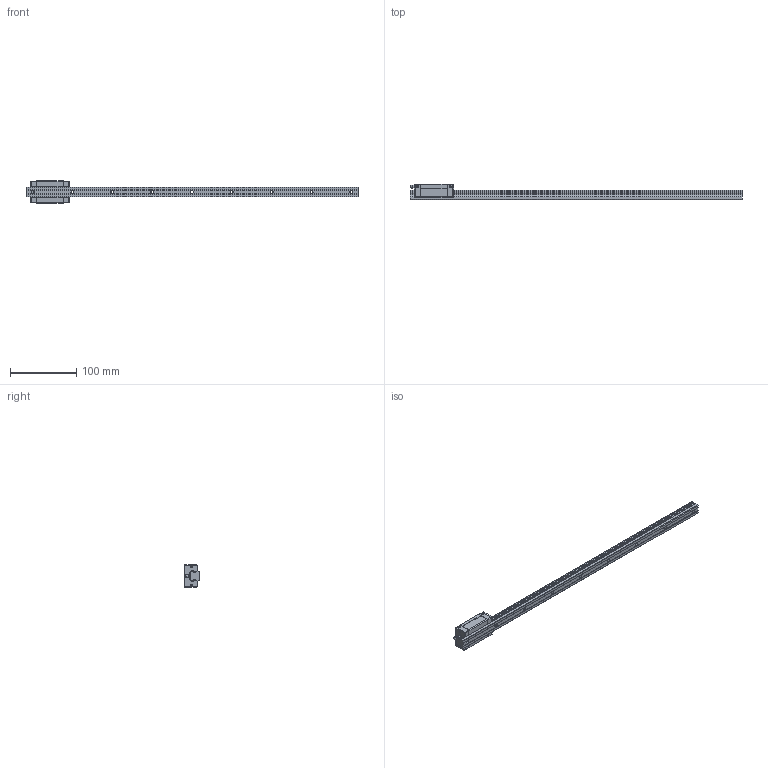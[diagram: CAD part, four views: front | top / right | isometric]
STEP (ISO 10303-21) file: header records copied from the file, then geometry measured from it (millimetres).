
FILE_DESCRIPTION(/* description */ ('STEP AP214'),/* implementation_level */ '2;1');
FILE_NAME(/* name */ 'D:\Katalogi inne\Technika liniowa\NATECH\Modele 3D\nowe 11.02.2026\SHAC_GHL15CA1R500Z0C101011\NGL15CAZ0C.stp',/* time_stamp */ '2026-02-11T16:57:17+01:00',/* author */ ('dnia_tomasz_tm'),/* organization */ ('CADENAS'),/* preprocessor_version */ 'ST-DEVELOPER v16.13',/* originating_system */ 'Autodesk Inventor 2018',/* authorisation */ ' ');
FILE_SCHEMA (('AUTOMOTIVE_DESIGN { 1 0 10303 214 3 1 1 }'));
Length unit declared in the file: millimetre
Products named in the file (8): GHL15CA1R500Z0C-10_10(1_1); GHR15R500C+RC-10_10(1)_RAIL; GHL15CA_SLIDER; GH15_BOLT; GHL15CA_C; GHL15CA_P; GH15_SCREW; GH15-_G
Assembly tree (12 placements, depth 2):
  GHL15CA1R500Z0C-10_10(1_1)
    GHR15R500C+RC-10_10(1)_RAIL
    GHL15CA_SLIDER
    GHL15CA_C  x2
    GHL15CA_P  x2
    GH15_SCREW  x4
    GH15_BOLT
    GH15-_G
Bounding box: 500 x 24 x 34 mm (x, y, z)
Volume: 126176.6 mm3; surface area: 46288.4 mm2
Topology: 12 solids, 12 shells, 446 faces, 1165 edges, 768 vertices
Faces by surface type: plane 339, cylinder 77, cone 16, torus 9, sphere 5
Full cylindrical faces by diameter (mm): 0.426 x4, 2.64 x8, 3.15 x6, 3.242 x4, 4 x2, 4.5 x9, 4.6 x2, 5 x1, 5.5 x1, 7.5 x9
Entity records: 8501 total; most frequent: CARTESIAN_POINT 1447, DIRECTION 1383, ORIENTED_EDGE 1320, EDGE_CURVE 660, LINE 509, VECTOR 509, VERTEX_POINT 465, AXIS2_PLACEMENT_3D 437
